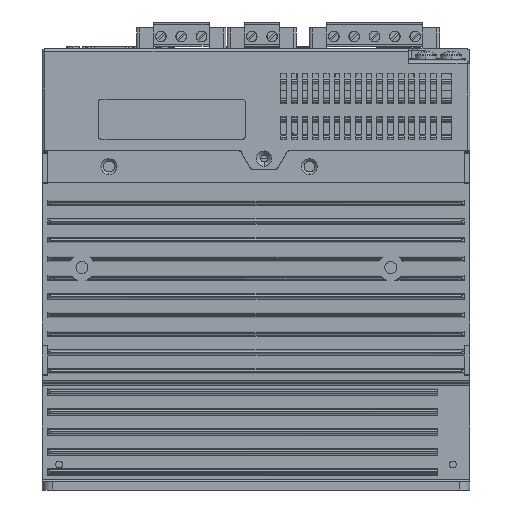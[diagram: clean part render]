
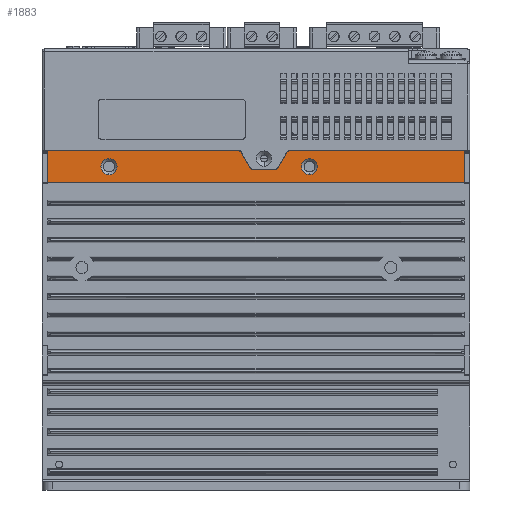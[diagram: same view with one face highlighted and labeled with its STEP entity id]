
A CAD part, left-side view. The second image highlights one B-rep face of the part: STEP entity #1883.
In plain terms, the highlighted planar face has unit normal (-1, 0, 0).
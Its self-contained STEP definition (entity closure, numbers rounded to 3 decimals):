
#1883 = ADVANCED_FACE ( 'NONE', ( #81011, #81007, #81013 ), #81014, .T. ) ;
#9302 = CIRCLE ( 'NONE', #9310, 3. ) ;
#9310 = AXIS2_PLACEMENT_3D ( 'NONE', #70134, #70135, #70136 ) ;
#9321 = CIRCLE ( 'NONE', #9330, 3. ) ;
#9330 = AXIS2_PLACEMENT_3D ( 'NONE', #70143, #70144, #70145 ) ;
#9370 = VECTOR ( 'NONE', #70177, 1000. ) ;
#9398 = CIRCLE ( 'NONE', #9404, 1. ) ;
#9401 = VECTOR ( 'NONE', #70214, 1000. ) ;
#9404 = AXIS2_PLACEMENT_3D ( 'NONE', #70197, #70198, #70199 ) ;
#9406 = VECTOR ( 'NONE', #70203, 1000. ) ;
#9410 = VECTOR ( 'NONE', #70206, 1000. ) ;
#9413 = VECTOR ( 'NONE', #70209, 1000. ) ;
#9416 = VECTOR ( 'NONE', #70212, 1000. ) ;
#9422 = VECTOR ( 'NONE', #70217, 1000. ) ;
#9425 = CIRCLE ( 'NONE', #9433, 1. ) ;
#9430 = CIRCLE ( 'NONE', #9438, 1. ) ;
#9433 = AXIS2_PLACEMENT_3D ( 'NONE', #70220, #70221, #70222 ) ;
#9435 = VECTOR ( 'NONE', #70228, 1000. ) ;
#9438 = AXIS2_PLACEMENT_3D ( 'NONE', #70225, #70226, #70227 ) ;
#9441 = CIRCLE ( 'NONE', #9448, 1. ) ;
#9448 = AXIS2_PLACEMENT_3D ( 'NONE', #70231, #70232, #70233 ) ;
#12417 = ORIENTED_EDGE ( 'NONE', *, *, #29260, .F. ) ;
#12419 = ORIENTED_EDGE ( 'NONE', *, *, #29256, .T. ) ;
#12420 = ORIENTED_EDGE ( 'NONE', *, *, #29262, .T. ) ;
#12422 = ORIENTED_EDGE ( 'NONE', *, *, #29265, .F. ) ;
#12424 = ORIENTED_EDGE ( 'NONE', *, *, #29266, .F. ) ;
#12426 = ORIENTED_EDGE ( 'NONE', *, *, #29268, .T. ) ;
#12428 = ORIENTED_EDGE ( 'NONE', *, *, #29271, .T. ) ;
#12430 = ORIENTED_EDGE ( 'NONE', *, *, #29273, .T. ) ;
#12432 = ORIENTED_EDGE ( 'NONE', *, *, #29241, .F. ) ;
#12433 = ORIENTED_EDGE ( 'NONE', *, *, #29275, .T. ) ;
#12435 = ORIENTED_EDGE ( 'NONE', *, *, #29277, .F. ) ;
#12437 = ORIENTED_EDGE ( 'NONE', *, *, #29279, .T. ) ;
#12439 = ORIENTED_EDGE ( 'NONE', *, *, #28600, .T. ) ;
#12441 = ORIENTED_EDGE ( 'NONE', *, *, #29220, .T. ) ;
#12443 = ORIENTED_EDGE ( 'NONE', *, *, #28614, .T. ) ;
#12445 = ORIENTED_EDGE ( 'NONE', *, *, #29214, .T. ) ;
#14808 = AXIS2_PLACEMENT_3D ( 'NONE', #81010, #81002, #81016 ) ;
#22245 = CIRCLE ( 'NONE', #22249, 3. ) ;
#22249 = AXIS2_PLACEMENT_3D ( 'NONE', #102108, #102109, #102110 ) ;
#22255 = CIRCLE ( 'NONE', #22259, 3. ) ;
#22259 = AXIS2_PLACEMENT_3D ( 'NONE', #102129, #102130, #102131 ) ;
#28600 = EDGE_CURVE ( 'NONE', #56819, #56815, #22245, .T. ) ;
#28614 = EDGE_CURVE ( 'NONE', #56811, #56808, #22255, .T. ) ;
#29214 = EDGE_CURVE ( 'NONE', #56808, #56811, #9302, .T. ) ;
#29220 = EDGE_CURVE ( 'NONE', #56815, #56819, #9321, .T. ) ;
#29241 = EDGE_CURVE ( 'NONE', #57145, #57154, #70160, .T. ) ;
#29256 = EDGE_CURVE ( 'NONE', #57163, #57146, #9398, .T. ) ;
#29260 = EDGE_CURVE ( 'NONE', #57163, #57158, #70201, .T. ) ;
#29262 = EDGE_CURVE ( 'NONE', #57146, #57164, #70204, .T. ) ;
#29265 = EDGE_CURVE ( 'NONE', #57166, #57164, #70207, .T. ) ;
#29266 = EDGE_CURVE ( 'NONE', #57160, #57166, #70210, .T. ) ;
#29268 = EDGE_CURVE ( 'NONE', #57160, #57165, #70195, .T. ) ;
#29271 = EDGE_CURVE ( 'NONE', #57165, #57169, #70215, .T. ) ;
#29273 = EDGE_CURVE ( 'NONE', #57169, #57154, #9425, .T. ) ;
#29275 = EDGE_CURVE ( 'NONE', #57145, #57167, #9430, .T. ) ;
#29277 = EDGE_CURVE ( 'NONE', #57170, #57167, #70218, .T. ) ;
#29279 = EDGE_CURVE ( 'NONE', #57170, #57158, #9441, .T. ) ;
#51875 = CARTESIAN_POINT ( 'NONE',  ( -28., -84.49, -38.905 ) ) ;
#51877 = CARTESIAN_POINT ( 'NONE',  ( -28., -69.527, -32.4 ) ) ;
#51900 = CARTESIAN_POINT ( 'NONE',  ( -28., -88.01, -32.895 ) ) ;
#51912 = CARTESIAN_POINT ( 'NONE',  ( -28., -73.91, -38.905 ) ) ;
#51917 = CARTESIAN_POINT ( 'NONE',  ( -28., -154.2, -44.4 ) ) ;
#51926 = CARTESIAN_POINT ( 'NONE',  ( -28., -70.39, -32.895 ) ) ;
#51929 = CARTESIAN_POINT ( 'NONE',  ( -28., 1.8, -32.4 ) ) ;
#51932 = CARTESIAN_POINT ( 'NONE',  ( -28., -154.2, -32.4 ) ) ;
#51935 = CARTESIAN_POINT ( 'NONE',  ( -28., 1.8, -44.4 ) ) ;
#51937 = CARTESIAN_POINT ( 'NONE',  ( -28., -83.627, -39.4 ) ) ;
#51943 = CARTESIAN_POINT ( 'NONE',  ( -28., -88.873, -32.4 ) ) ;
#51946 = CARTESIAN_POINT ( 'NONE',  ( -28., -74.773, -39.4 ) ) ;
#56808 = VERTEX_POINT ( 'NONE', #79790 ) ;
#56811 = VERTEX_POINT ( 'NONE', #79793 ) ;
#56815 = VERTEX_POINT ( 'NONE', #79797 ) ;
#56819 = VERTEX_POINT ( 'NONE', #79801 ) ;
#57145 = VERTEX_POINT ( 'NONE', #51875 ) ;
#57146 = VERTEX_POINT ( 'NONE', #51877 ) ;
#57154 = VERTEX_POINT ( 'NONE', #51900 ) ;
#57158 = VERTEX_POINT ( 'NONE', #51912 ) ;
#57160 = VERTEX_POINT ( 'NONE', #51917 ) ;
#57163 = VERTEX_POINT ( 'NONE', #51926 ) ;
#57164 = VERTEX_POINT ( 'NONE', #51929 ) ;
#57165 = VERTEX_POINT ( 'NONE', #51932 ) ;
#57166 = VERTEX_POINT ( 'NONE', #51935 ) ;
#57167 = VERTEX_POINT ( 'NONE', #51937 ) ;
#57169 = VERTEX_POINT ( 'NONE', #51943 ) ;
#57170 = VERTEX_POINT ( 'NONE', #51946 ) ;
#70134 = CARTESIAN_POINT ( 'NONE',  ( -28., -21.2, -38.4 ) ) ;
#70135 = DIRECTION ( 'NONE',  ( 1., 0., 0. ) ) ;
#70136 = DIRECTION ( 'NONE',  ( 0., 0., 1. ) ) ;
#70143 = CARTESIAN_POINT ( 'NONE',  ( -28., -96.2, -38.4 ) ) ;
#70144 = DIRECTION ( 'NONE',  ( 1., 0., 0. ) ) ;
#70145 = DIRECTION ( 'NONE',  ( 0., 0., 1. ) ) ;
#70160 = LINE ( 'NONE', #70161, #9370 ) ;
#70161 = CARTESIAN_POINT ( 'NONE',  ( -28., -84.2, -39.4 ) ) ;
#70177 = DIRECTION ( 'NONE',  ( 0., -0.505, 0.863 ) ) ;
#70195 = LINE ( 'NONE', #70213, #9401 ) ;
#70197 = CARTESIAN_POINT ( 'NONE',  ( -28., -69.527, -33.4 ) ) ;
#70198 = DIRECTION ( 'NONE',  ( -1., 0., 0. ) ) ;
#70199 = DIRECTION ( 'NONE',  ( 0., 0., 1. ) ) ;
#70201 = LINE ( 'NONE', #70202, #9406 ) ;
#70202 = CARTESIAN_POINT ( 'NONE',  ( -28., -74.2, -39.4 ) ) ;
#70203 = DIRECTION ( 'NONE',  ( 0., -0.505, -0.863 ) ) ;
#70204 = LINE ( 'NONE', #70205, #9410 ) ;
#70205 = CARTESIAN_POINT ( 'NONE',  ( -28., -154.2, -32.4 ) ) ;
#70206 = DIRECTION ( 'NONE',  ( 0., 1., 0. ) ) ;
#70207 = LINE ( 'NONE', #70208, #9413 ) ;
#70208 = CARTESIAN_POINT ( 'NONE',  ( -28., 1.8, -32.4 ) ) ;
#70209 = DIRECTION ( 'NONE',  ( 0., 0., 1. ) ) ;
#70210 = LINE ( 'NONE', #70211, #9416 ) ;
#70211 = CARTESIAN_POINT ( 'NONE',  ( -28., -154.2, -44.4 ) ) ;
#70212 = DIRECTION ( 'NONE',  ( 0., 1., 0. ) ) ;
#70213 = CARTESIAN_POINT ( 'NONE',  ( -28., -154.2, -32.4 ) ) ;
#70214 = DIRECTION ( 'NONE',  ( 0., 0., 1. ) ) ;
#70215 = LINE ( 'NONE', #70216, #9422 ) ;
#70216 = CARTESIAN_POINT ( 'NONE',  ( -28., -154.2, -32.4 ) ) ;
#70217 = DIRECTION ( 'NONE',  ( 0., 1., 0. ) ) ;
#70218 = LINE ( 'NONE', #70219, #9435 ) ;
#70219 = CARTESIAN_POINT ( 'NONE',  ( -28., -74.2, -39.4 ) ) ;
#70220 = CARTESIAN_POINT ( 'NONE',  ( -28., -88.873, -33.4 ) ) ;
#70221 = DIRECTION ( 'NONE',  ( -1., 0., 0. ) ) ;
#70222 = DIRECTION ( 'NONE',  ( 0., 0., 1. ) ) ;
#70225 = CARTESIAN_POINT ( 'NONE',  ( -28., -83.627, -38.4 ) ) ;
#70226 = DIRECTION ( 'NONE',  ( 1., 0., 0. ) ) ;
#70227 = DIRECTION ( 'NONE',  ( 0., 0., 1. ) ) ;
#70228 = DIRECTION ( 'NONE',  ( 0., -1., 0. ) ) ;
#70231 = CARTESIAN_POINT ( 'NONE',  ( -28., -74.773, -38.4 ) ) ;
#70232 = DIRECTION ( 'NONE',  ( 1., 0., 0. ) ) ;
#70233 = DIRECTION ( 'NONE',  ( 0., 0., 1. ) ) ;
#79790 = CARTESIAN_POINT ( 'NONE',  ( -28., -21.2, -41.4 ) ) ;
#79793 = CARTESIAN_POINT ( 'NONE',  ( -28., -21.2, -35.4 ) ) ;
#79797 = CARTESIAN_POINT ( 'NONE',  ( -28., -96.2, -41.4 ) ) ;
#79801 = CARTESIAN_POINT ( 'NONE',  ( -28., -96.2, -35.4 ) ) ;
#81002 = DIRECTION ( 'NONE',  ( -1., 0., 0. ) ) ;
#81007 = FACE_BOUND ( 'NONE', #93377, .T. ) ;
#81010 = CARTESIAN_POINT ( 'NONE',  ( -28., -154.2, -32.4 ) ) ;
#81011 = FACE_OUTER_BOUND ( 'NONE', #93375, .T. ) ;
#81013 = FACE_BOUND ( 'NONE', #93379, .T. ) ;
#81014 = PLANE ( 'NONE',  #14808 ) ;
#81016 = DIRECTION ( 'NONE',  ( 0., 0., 1. ) ) ;
#93375 = EDGE_LOOP ( 'NONE', ( #12417, #12419, #12420, #12422, #12424, #12426, #12428, #12430, #12432, #12433, #12435, #12437 ) ) ;
#93377 = EDGE_LOOP ( 'NONE', ( #12439, #12441 ) ) ;
#93379 = EDGE_LOOP ( 'NONE', ( #12443, #12445 ) ) ;
#102108 = CARTESIAN_POINT ( 'NONE',  ( -28., -96.2, -38.4 ) ) ;
#102109 = DIRECTION ( 'NONE',  ( 1., 0., 0. ) ) ;
#102110 = DIRECTION ( 'NONE',  ( 0., 0., 1. ) ) ;
#102129 = CARTESIAN_POINT ( 'NONE',  ( -28., -21.2, -38.4 ) ) ;
#102130 = DIRECTION ( 'NONE',  ( 1., 0., 0. ) ) ;
#102131 = DIRECTION ( 'NONE',  ( 0., 0., 1. ) ) ;
